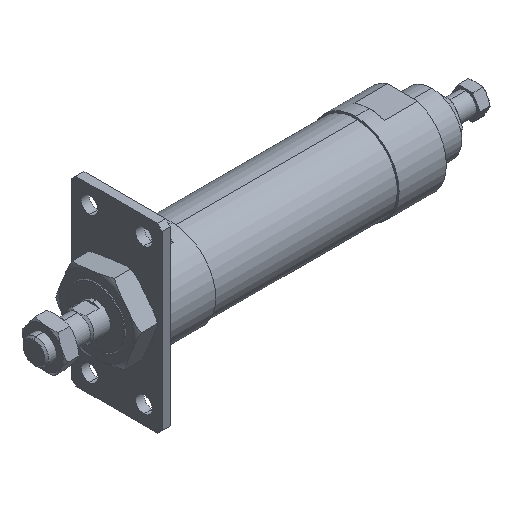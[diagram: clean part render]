
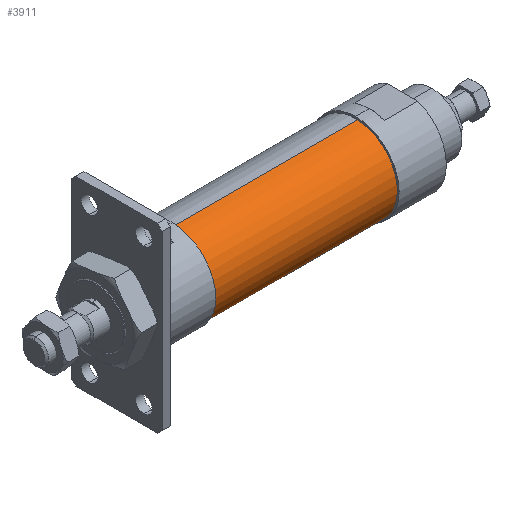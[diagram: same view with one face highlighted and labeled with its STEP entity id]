
A CAD part, isometric view. The second image highlights one B-rep face of the part: STEP entity #3911.
In plain terms, the highlighted cylindrical face has radius 23 mm (diameter 46 mm), a partial arc.
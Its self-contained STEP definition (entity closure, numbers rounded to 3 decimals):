
#128 = DIRECTION ( 'NONE',  ( 1., 0., 0. ) ) ;
#132 = VERTEX_POINT ( 'NONE', #2648 ) ;
#192 = CIRCLE ( 'NONE', #2508, 23. ) ;
#397 = EDGE_LOOP ( 'NONE', ( #1541, #3238, #773, #3958 ) ) ;
#665 = EDGE_CURVE ( 'NONE', #132, #3516, #3234, .T. ) ;
#683 = CARTESIAN_POINT ( 'NONE',  ( -50.5, 0., 23. ) ) ;
#773 = ORIENTED_EDGE ( 'NONE', *, *, #2610, .T. ) ;
#956 = EDGE_CURVE ( 'NONE', #4153, #132, #5135, .T. ) ;
#965 = DIRECTION ( 'NONE',  ( 0., 0., -1. ) ) ;
#1141 = CARTESIAN_POINT ( 'NONE',  ( 50.5, 0., 0. ) ) ;
#1173 = DIRECTION ( 'NONE',  ( -1., 0., 0. ) ) ;
#1481 = VECTOR ( 'NONE', #1173, 1000. ) ;
#1541 = ORIENTED_EDGE ( 'NONE', *, *, #665, .F. ) ;
#1669 = CARTESIAN_POINT ( 'NONE',  ( 50.5, 0., 23. ) ) ;
#1878 = DIRECTION ( 'NONE',  ( 0., 0., 1. ) ) ;
#1888 = CARTESIAN_POINT ( 'NONE',  ( -50.5, 0., 0. ) ) ;
#2209 = CYLINDRICAL_SURFACE ( 'NONE', #5199, 23. ) ;
#2260 = DIRECTION ( 'NONE',  ( 0., 0., -1. ) ) ;
#2354 = CARTESIAN_POINT ( 'NONE',  ( 50.5, 0., 0. ) ) ;
#2386 = LINE ( 'NONE', #1669, #3968 ) ;
#2508 = AXIS2_PLACEMENT_3D ( 'NONE', #1888, #4576, #965 ) ;
#2610 = EDGE_CURVE ( 'NONE', #4153, #4336, #2386, .T. ) ;
#2648 = CARTESIAN_POINT ( 'NONE',  ( 50.5, 0., -23. ) ) ;
#3234 = LINE ( 'NONE', #4933, #1481 ) ;
#3238 = ORIENTED_EDGE ( 'NONE', *, *, #956, .F. ) ;
#3349 = CARTESIAN_POINT ( 'NONE',  ( -50.5, 0., -23. ) ) ;
#3516 = VERTEX_POINT ( 'NONE', #3349 ) ;
#3887 = DIRECTION ( 'NONE',  ( -1., 0., 0. ) ) ;
#3911 = ADVANCED_FACE ( 'NONE', ( #4051 ), #2209, .T. ) ;
#3958 = ORIENTED_EDGE ( 'NONE', *, *, #5165, .T. ) ;
#3968 = VECTOR ( 'NONE', #4634, 1000. ) ;
#4051 = FACE_OUTER_BOUND ( 'NONE', #397, .T. ) ;
#4153 = VERTEX_POINT ( 'NONE', #4471 ) ;
#4336 = VERTEX_POINT ( 'NONE', #683 ) ;
#4471 = CARTESIAN_POINT ( 'NONE',  ( 50.5, 0., 23. ) ) ;
#4576 = DIRECTION ( 'NONE',  ( 1., 0., 0. ) ) ;
#4634 = DIRECTION ( 'NONE',  ( -1., 0., 0. ) ) ;
#4721 = AXIS2_PLACEMENT_3D ( 'NONE', #2354, #128, #2260 ) ;
#4933 = CARTESIAN_POINT ( 'NONE',  ( 50.5, 0., -23. ) ) ;
#5135 = CIRCLE ( 'NONE', #4721, 23. ) ;
#5165 = EDGE_CURVE ( 'NONE', #4336, #3516, #192, .T. ) ;
#5199 = AXIS2_PLACEMENT_3D ( 'NONE', #1141, #3887, #1878 ) ;
